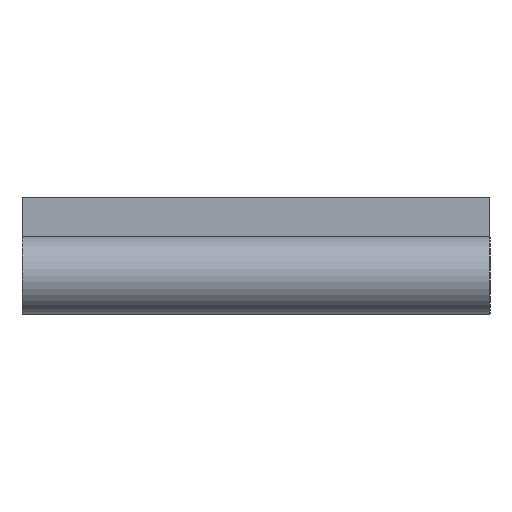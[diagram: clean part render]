
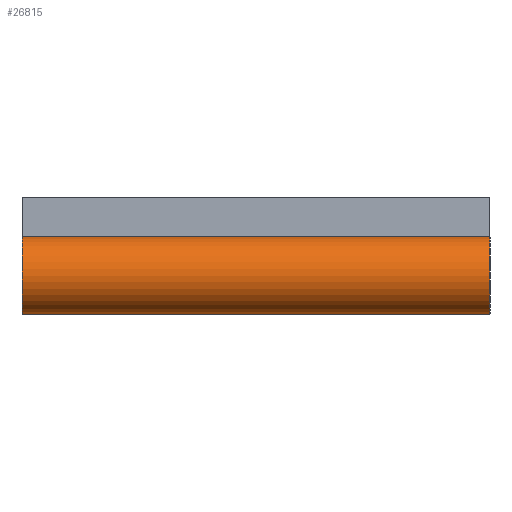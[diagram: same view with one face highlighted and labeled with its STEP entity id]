
A CAD part, left-side view. The second image highlights one B-rep face of the part: STEP entity #26815.
In plain terms, the highlighted cylindrical face has radius 4 mm (diameter 8 mm), a partial arc.
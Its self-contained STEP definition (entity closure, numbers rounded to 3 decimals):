
#1075 = FACE_OUTER_BOUND ( 'NONE', #28494, .T. ) ;
#1652 = EDGE_CURVE ( 'NONE', #4263, #24221, #7057, .T. ) ;
#2146 = CYLINDRICAL_SURFACE ( 'NONE', #20003, 4. ) ;
#2294 = CARTESIAN_POINT ( 'NONE',  ( -32., 48., -3.25 ) ) ;
#3902 = CARTESIAN_POINT ( 'NONE',  ( -32., 48., -7.25 ) ) ;
#4263 = VERTEX_POINT ( 'NONE', #25801 ) ;
#4454 = VECTOR ( 'NONE', #22959, 1000. ) ;
#6908 = ORIENTED_EDGE ( 'NONE', *, *, #1652, .T. ) ;
#7057 = LINE ( 'NONE', #3902, #4454 ) ;
#7868 = DIRECTION ( 'NONE',  ( 0., 0., 1. ) ) ;
#8074 = AXIS2_PLACEMENT_3D ( 'NONE', #2294, #23858, #16771 ) ;
#8099 = VERTEX_POINT ( 'NONE', #9154 ) ;
#8634 = CARTESIAN_POINT ( 'NONE',  ( -32., 48., -3.25 ) ) ;
#9154 = CARTESIAN_POINT ( 'NONE',  ( -32., 0., 0.75 ) ) ;
#9199 = AXIS2_PLACEMENT_3D ( 'NONE', #14632, #12132, #7868 ) ;
#11008 = CIRCLE ( 'NONE', #9199, 4. ) ;
#11201 = DIRECTION ( 'NONE',  ( 0., 0., -1. ) ) ;
#11466 = CARTESIAN_POINT ( 'NONE',  ( -32., 0., -7.25 ) ) ;
#12006 = EDGE_CURVE ( 'NONE', #24221, #8099, #11008, .T. ) ;
#12132 = DIRECTION ( 'NONE',  ( 0., 1., 0. ) ) ;
#12505 = CARTESIAN_POINT ( 'NONE',  ( -32., 48., 0.75 ) ) ;
#12659 = EDGE_CURVE ( 'NONE', #13112, #8099, #26680, .T. ) ;
#13112 = VERTEX_POINT ( 'NONE', #27815 ) ;
#14632 = CARTESIAN_POINT ( 'NONE',  ( -32., 0., -3.25 ) ) ;
#14840 = ORIENTED_EDGE ( 'NONE', *, *, #15179, .F. ) ;
#15179 = EDGE_CURVE ( 'NONE', #4263, #13112, #23189, .T. ) ;
#16529 = ORIENTED_EDGE ( 'NONE', *, *, #12659, .F. ) ;
#16771 = DIRECTION ( 'NONE',  ( 0., 0., 1. ) ) ;
#20003 = AXIS2_PLACEMENT_3D ( 'NONE', #8634, #23096, #11201 ) ;
#20696 = VECTOR ( 'NONE', #29261, 1000. ) ;
#21016 = ORIENTED_EDGE ( 'NONE', *, *, #12006, .T. ) ;
#22959 = DIRECTION ( 'NONE',  ( 0., -1., 0. ) ) ;
#23096 = DIRECTION ( 'NONE',  ( 0., -1., 0. ) ) ;
#23189 = CIRCLE ( 'NONE', #8074, 4. ) ;
#23858 = DIRECTION ( 'NONE',  ( 0., 1., 0. ) ) ;
#24221 = VERTEX_POINT ( 'NONE', #11466 ) ;
#25801 = CARTESIAN_POINT ( 'NONE',  ( -32., 48., -7.25 ) ) ;
#26680 = LINE ( 'NONE', #12505, #20696 ) ;
#26815 = ADVANCED_FACE ( 'NONE', ( #1075 ), #2146, .T. ) ;
#27815 = CARTESIAN_POINT ( 'NONE',  ( -32., 48., 0.75 ) ) ;
#28494 = EDGE_LOOP ( 'NONE', ( #14840, #6908, #21016, #16529 ) ) ;
#29261 = DIRECTION ( 'NONE',  ( 0., -1., 0. ) ) ;
